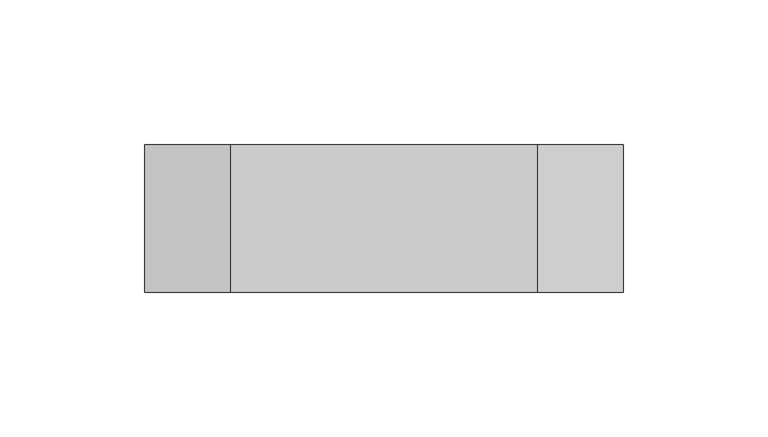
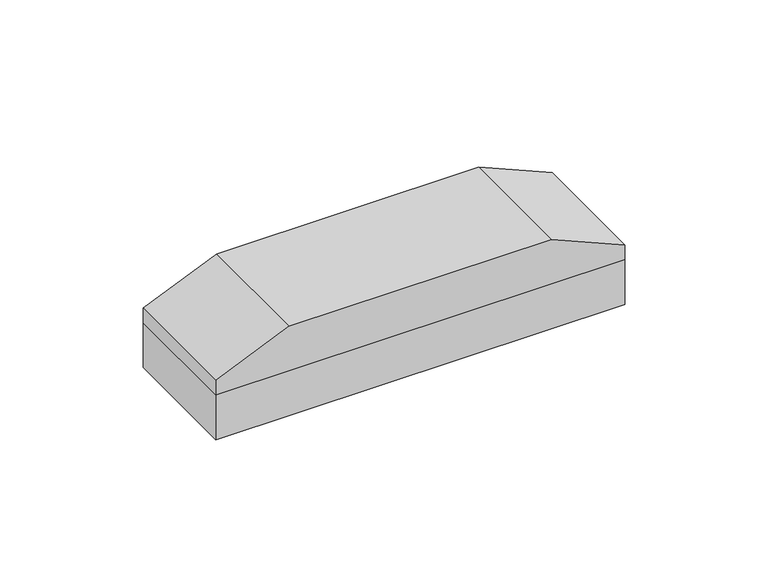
"""IFC4 building model written with IfcOpenShell, lengths in millimetres: proxy geometry, Spinneybeck_ARO Plank 8 : E - 6 1/2” x 2” x 3/4”."""

import ifcopenshell
import ifcopenshell.guid

model = None  # the IFC model being written
_history = None  # IfcOwnerHistory: only IFC2X3 demands one
_inside = {}  # id of a spatial element -> (the spatial element, [elements in it])
_under = {}  # id of a project, library or spatial element -> (it, [spatial elements below it])
_declared = {}  # id of a project -> (the project, [libraries it declares])
_typed = {}  # id of a type object -> (the type object, [elements of that type])
_made_of = {}  # id of a material, layer set ... -> (it, [elements and type objects made of it])


def new_model(schema):
    """Start an empty IFC model of exactly this schema.

    Asked for "IFC4X3", IfcOpenShell would pick the latest addendum, in which some entities
    have other attributes; the version numbers below select the first issue.
    IFC2X3 requires an IfcOwnerHistory on every rooted entity: one is made here for all.
    """
    global model, _history
    if schema == "IFC4X3":
        model = ifcopenshell.file(schema_version=(4, 3, 0, 0))
    else:
        model = ifcopenshell.file(schema=schema)
    _inside.clear()
    _under.clear()
    _declared.clear()
    _typed.clear()
    _made_of.clear()
    _history = None
    if model.schema == "IFC2X3":
        org = make("IfcOrganization", Name="unknown")
        user = make(
            "IfcPersonAndOrganization",
            ThePerson=make("IfcPerson", FamilyName="unknown"),
            TheOrganization=org,
        )
        app = make(
            "IfcApplication",
            ApplicationDeveloper=org,
            Version="unknown",
            ApplicationFullName="unknown",
            ApplicationIdentifier="unknown",
        )
        _history = make(
            "IfcOwnerHistory",
            OwningUser=user,
            OwningApplication=app,
            ChangeAction="ADDED",
            CreationDate=0,
        )
    return model


def make(cls, **values):
    """One entity of the class cls with the attributes given. An attribute that is None is left unset."""
    return model.create_entity(
        cls, **{name: value for name, value in values.items() if value is not None}
    )


def rooted(cls, **values):
    """An entity with a GlobalId (a new one), such as an element, a storey or a relation."""
    return make(cls, GlobalId=ifcopenshell.guid.new(), OwnerHistory=_history, **values)


def si_unit(unit_type, name, prefix=None):
    """IfcSIUnit, for example si_unit("LENGTHUNIT", "METRE", prefix="MILLI")."""
    return make("IfcSIUnit", UnitType=unit_type, Prefix=prefix, Name=name)


def assignment(units):
    """IfcUnitAssignment: the units of a project."""
    return None if units is None else make("IfcUnitAssignment", Units=units)


def point(xyz):
    """IfcCartesianPoint."""
    return None if xyz is None else make("IfcCartesianPoint", Coordinates=xyz)


def direction(xyz):
    """IfcDirection."""
    return None if xyz is None else make("IfcDirection", DirectionRatios=xyz)


def frame(location, z_axis=None, x_axis=None):
    """IfcAxis2Placement3D, a coordinate frame: its origin and axes. An axis left out is left unset."""
    return make(
        "IfcAxis2Placement3D",
        Location=point(location),
        Axis=direction(z_axis),
        RefDirection=direction(x_axis),
    )


def origin():
    """The frame at (0, 0, 0) with its axes left unset."""
    return frame((0.0, 0.0, 0.0))


def origin_with_axes():
    """The frame at (0, 0, 0) with the z axis (0, 0, 1) and the x axis (1, 0, 0) written out."""
    return frame((0.0, 0.0, 0.0), z_axis=(0.0, 0.0, 1.0), x_axis=(1.0, 0.0, 0.0))


def place(relative_to, where):
    """IfcLocalPlacement: puts the frame where relative to a parent placement (None: the world)."""
    return make(
        "IfcLocalPlacement", PlacementRelTo=relative_to, RelativePlacement=where
    )


def context(
    kind, dimensions, precision=None, world=None, true_north=None, identifier=None
):
    """IfcGeometricRepresentationContext, for example the 3D "Model" context."""
    return make(
        "IfcGeometricRepresentationContext",
        ContextIdentifier=identifier,
        ContextType=kind,
        CoordinateSpaceDimension=dimensions,
        Precision=precision,
        WorldCoordinateSystem=world,
        TrueNorth=true_north,
    )


def project(units=None, contexts=None):
    """IfcProject with its units and contexts."""
    return rooted(
        "IfcProject",
        Name="project",
        RepresentationContexts=contexts,
        UnitsInContext=assignment(units),
    )


def spatial(cls, under=None, at=None, **own):
    """A site, building, storey or space (cls), placed at a placement, below another one or the project."""
    s = rooted(cls, ObjectPlacement=at, **own)
    if under is not None:
        _under.setdefault(under.id(), (under, []))[1].append(s)
    return s


def polyline(points):
    """IfcPolyline through the points."""
    return make("IfcPolyline", Points=[point(p) for p in points])


def outline(outer, holes=None, kind="AREA"):
    """IfcArbitraryClosedProfileDef: a profile drawn as a closed curve; with holes, ...WithVoids."""
    if holes is None:
        return make("IfcArbitraryClosedProfileDef", ProfileType=kind, OuterCurve=outer)
    return make(
        "IfcArbitraryProfileDefWithVoids",
        ProfileType=kind,
        OuterCurve=outer,
        InnerCurves=holes,
    )


def extrude(swept, where, along, depth):
    """IfcExtrudedAreaSolid: the profile swept, set in the frame where, extruded along a direction by depth."""
    return make(
        "IfcExtrudedAreaSolid",
        SweptArea=swept,
        Position=where,
        ExtrudedDirection=direction(along),
        Depth=depth,
    )


def shape(context_of_items, identifier, shape_type, items):
    """IfcShapeRepresentation: the items that make up one representation, for example the "Body"."""
    return make(
        "IfcShapeRepresentation",
        ContextOfItems=context_of_items,
        RepresentationIdentifier=identifier,
        RepresentationType=shape_type,
        Items=items,
    )


def source(mapping_origin, context_of_items, identifier, shape_type, items):
    """IfcRepresentationMap: a shape defined once, which mapped items show again and again."""
    return make(
        "IfcRepresentationMap",
        MappingOrigin=mapping_origin,
        MappedRepresentation=shape(context_of_items, identifier, shape_type, items),
    )


def transform(
    local_origin,
    x_axis=None,
    y_axis=None,
    z_axis=None,
    scale=None,
    scale2=None,
    scale3=None,
    uniform=True,
):
    """IfcCartesianTransformationOperator3D, or its non-uniform kind. x_axis, y_axis, z_axis: its Axis1, 2, 3."""
    if uniform:
        return make(
            "IfcCartesianTransformationOperator3D",
            Axis1=direction(x_axis),
            Axis2=direction(y_axis),
            LocalOrigin=point(local_origin),
            Scale=scale,
            Axis3=direction(z_axis),
        )
    return make(
        "IfcCartesianTransformationOperator3DnonUniform",
        Axis1=direction(x_axis),
        Axis2=direction(y_axis),
        LocalOrigin=point(local_origin),
        Scale=scale,
        Axis3=direction(z_axis),
        Scale2=scale2,
        Scale3=scale3,
    )


def mapped(mapping_source, mapping_target):
    """IfcMappedItem: shows the shape of a source again, moved by a transform."""
    return make(
        "IfcMappedItem", MappingSource=mapping_source, MappingTarget=mapping_target
    )


def made_of(thing, what):
    """Note that an element or type object is made of a material, layer set ...; save() writes the relation."""
    if what is not None:
        _made_of.setdefault(what.id(), (what, []))[1].append(thing)
    return thing


def element(
    cls,
    number,
    at=None,
    inside=None,
    cuts=None,
    type_object=None,
    material=None,
    context=None,
    identifier="Body",
    shape_type=None,
    held_by="IfcProductDefinitionShape",
    body=None,
    shapes=None,
    **own,
):
    """One element of the class cls, such as IfcWall. Its Tag is "e" and its number.

    at: its placement. inside: the storey or other place that contains it. cuts: it is an
    opening in that element (IfcRelVoidsElement). A single representation is given by context,
    identifier, shape_type and body (its items); several are given by shapes. held_by: the class
    of the entity that holds the representations. save() writes the other relations.
    """
    e = rooted(cls, Tag="e%d" % number, ObjectPlacement=at, **own)
    if body is not None:
        shapes = [shape(context, identifier, shape_type, body)]
    if shapes is not None:
        e.Representation = make(held_by, Representations=shapes)
    if inside is not None:
        _inside.setdefault(inside.id(), (inside, []))[1].append(e)
    if cuts is not None:
        rooted(
            "IfcRelVoidsElement", RelatingBuildingElement=cuts, RelatedOpeningElement=e
        )
    if type_object is not None:
        _typed.setdefault(type_object.id(), (type_object, []))[1].append(e)
    return made_of(e, material)


def aggregate(whole, parts):
    """IfcRelAggregates: a whole, such as a stair, and the parts it consists of."""
    return rooted("IfcRelAggregates", RelatingObject=whole, RelatedObjects=parts)


def save(model, path):
    """Write the relations noted so far, then the file.

    IfcRelAggregates (storeys below a building ...), IfcRelContainedInSpatialStructure (elements
    in a storey), IfcRelDefinesByType, IfcRelAssociatesMaterial and IfcRelDeclares: one each for
    every whole, place, type object, material and project.
    """
    for whole, parts in _under.values():
        aggregate(whole, parts)
    for where, things in _inside.values():
        rooted(
            "IfcRelContainedInSpatialStructure",
            RelatedElements=things,
            RelatingStructure=where,
        )
    for kind, things in _typed.values():
        rooted("IfcRelDefinesByType", RelatedObjects=things, RelatingType=kind)
    for what, things in _made_of.values():
        rooted("IfcRelAssociatesMaterial", RelatedObjects=things, RelatingMaterial=what)
    for by, libraries in _declared.values():
        rooted("IfcRelDeclares", RelatingContext=by, RelatedDefinitions=libraries)
    model.write(path)


def specialty_equipment_c238b70d(model_context):
    return source(origin(), model_context, "Body", "SweptSolid", [
        extrude(outline(polyline([(19.05, -82.55), (19.05, 82.55), (25.4, 82.55), (38.1, 52.9166667), (38.1, -52.9166667), (25.4, -82.55), (19.05, -82.55)])), frame((0.0, -25.4, 0.0), z_axis=(0.0, 1.0, 0.0), x_axis=(0.0, 0.0, 1.0)), (0.0, 0.0, 1.0), 50.8),
        extrude(outline(polyline([(-82.55, -25.4), (-82.55, 25.4), (82.55, 25.4), (82.55, -25.4), (-82.55, -25.4)])), origin_with_axes(), (0.0, 0.0, 1.0), 19.05),
    ])


if __name__ == "__main__":
    model = new_model("IFC4")
    model_context = context("Model", 3, world=origin())
    ifc_project = project(units=[si_unit("LENGTHUNIT", "METRE", prefix="MILLI")], contexts=[model_context])
    site = spatial("IfcSite", under=ifc_project)
    building = spatial("IfcBuilding", under=site)
    placement = place(None, origin())
    specialty_equipment_shape = specialty_equipment_c238b70d(model_context)
    element("IfcBuildingElementProxy", 1, Name="Spinneybeck_ARO Plank 8 : E - 6 1/2” x 2” x 3/4”", ObjectType="Spinneybeck_ARO Plank 8 : E - 6 1/2” x 2” x 3/4”", at=placement, inside=building, context=model_context, shape_type="MappedRepresentation", body=[
        mapped(specialty_equipment_shape, transform((0.0, 0.0, 0.0), x_axis=(1.0, 0.0, 0.0), y_axis=(0.0, 1.0, 0.0), z_axis=(0.0, 0.0, 1.0))),
    ])
    save(model, "model.ifc")
